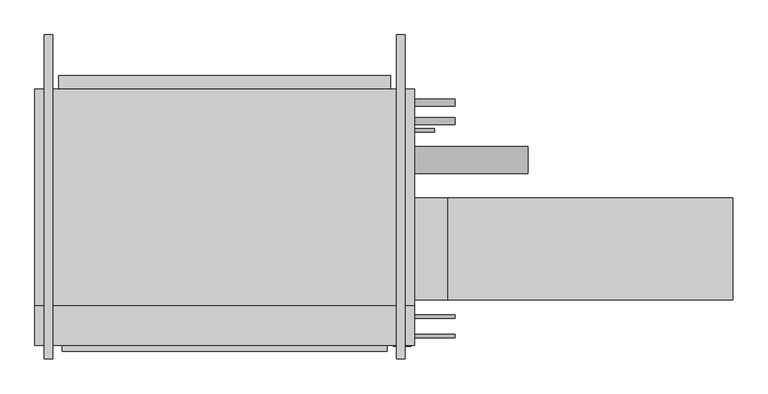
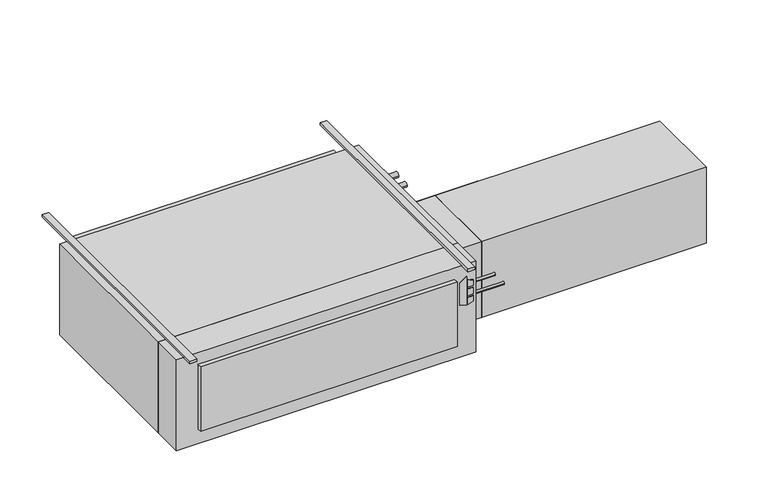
"""IFC4 building model written with IfcOpenShell, lengths in millimetres: proxy geometry."""

from ifc_helpers import new_model, si_unit, point, frame, frame_2d, origin, origin_with_axes, place, context, project, spatial, polyline, circle_curve, trimmed, segment, composite_curve, outline, extrude, source, transform, mapped, element, save


def mechanical_equipment_40ce1df8(model_context):
    return source(origin(), model_context, "Body", "SweptSolid", [
        extrude(outline(polyline([(-193.2519297, 785.8868862), (-203.2, 818.0602728), (-61.0290756, 818.0602728), (-84.0510817, 785.8868862), (-193.2519297, 785.8868862)])), frame((0.0, -797.052, 0.0), z_axis=(0.0, 1.0, 0.0), x_axis=(0.0, 0.0, 1.0)), (0.0, 0.0, 1.0), 3.175),
        extrude(outline(polyline([(-114.2526443, 824.8186058), (-117.4550368, 850.9), (-88.2261958, 850.9), (-80.1617807, 824.8186058), (-114.2526443, 824.8186058)])), frame((0.0, -797.052, 0.0), z_axis=(0.0, 1.0, 0.0), x_axis=(0.0, 0.0, 1.0)), (0.0, 0.0, 1.0), 3.175),
        extrude(outline(polyline([(-166.1161712, 850.9), (-169.7816721, 824.8186058), (-203.2, 824.8186058), (-194.5657628, 850.9), (-166.1161712, 850.9)])), frame((0.0, -797.052, 0.0), z_axis=(0.0, 1.0, 0.0), x_axis=(0.0, 0.0, 1.0)), (0.0, 0.0, 1.0), 3.175),
        extrude(outline(polyline([(-126.8010097, 850.9), (-124.5191834, 824.8186058), (-160.4567319, 824.8186058), (-157.7154669, 850.9), (-126.8010097, 850.9)])), frame((0.0, -797.052, 0.0), z_axis=(0.0, 1.0, 0.0), x_axis=(0.0, 0.0, 1.0)), (0.0, 0.0, 1.0), 3.175),
        extrude(outline(polyline([(863.6, -793.877), (-558.8, -793.877), (-558.8, -644.525), (863.6, -644.525), (863.6, -793.877)])), frame((0.0, 0.0, -457.2), z_axis=(0.0, 0.0, 1.0), x_axis=(1.0, 0.0, 0.0)), (0.0, 0.0, 1.0), 457.2),
        extrude(outline(polyline([(762.0, -816.229), (-457.2, -816.229), (-457.2, -793.877), (762.0, -793.877), (762.0, -816.229)])), frame((0.0, 0.0, -381.0), z_axis=(0.0, 0.0, 1.0), x_axis=(1.0, 0.0, 0.0)), (0.0, 0.0, 1.0), 323.85),
        extrude(outline(polyline([(2057.4, -241.3), (2057.4, -622.3), (990.6, -622.3), (990.6, -241.3), (2057.4, -241.3)])), frame((0.0, 0.0, -431.8), z_axis=(0.0, 0.0, 1.0), x_axis=(1.0, 0.0, 0.0)), (0.0, 0.0, 1.0), 381.0),
        extrude(outline(polyline([(990.6, -241.3), (990.6, -622.3), (863.6, -622.3), (863.6, -241.3), (990.6, -241.3)])), frame((0.0, 0.0, -431.8), z_axis=(0.0, 0.0, 1.0), x_axis=(1.0, 0.0, 0.0)), (0.0, 0.0, 1.0), 381.0),
        extrude(outline(composite_curve([segment(trimmed(circle_curve(frame_2d((-758.825, -184.15)), 6.35), [point((-752.475, -184.15))], [point((-765.175, -184.15))], False, "CARTESIAN"), True, "CONTINUOUS"), segment(trimmed(circle_curve(frame_2d((-758.825, -184.15)), 6.35), [point((-765.175, -184.15))], [point((-752.475, -184.15))], False, "CARTESIAN"), True, "CONTINUOUS")], self_intersect=False)), frame((863.6, 0.0, 0.0), z_axis=(1.0, 0.0, 0.0), x_axis=(0.0, 1.0, 0.0)), (0.0, 0.0, 1.0), 152.4),
        extrude(outline(composite_curve([segment(trimmed(circle_curve(frame_2d((-685.8, -184.15)), 6.35), [point((-679.45, -184.15))], [point((-692.15, -184.15))], False, "CARTESIAN"), True, "CONTINUOUS"), segment(trimmed(circle_curve(frame_2d((-685.8, -184.15)), 6.35), [point((-692.15, -184.15))], [point((-679.45, -184.15))], False, "CARTESIAN"), True, "CONTINUOUS")], self_intersect=False)), frame((863.6, 0.0, 0.0), z_axis=(1.0, 0.0, 0.0), x_axis=(0.0, 1.0, 0.0)), (0.0, 0.0, 1.0), 152.4),
        extrude(outline(composite_curve([segment(trimmed(circle_curve(frame_2d((117.475, -171.45)), 12.7), [point((130.175, -171.45))], [point((104.775, -171.45))], False, "CARTESIAN"), True, "CONTINUOUS"), segment(trimmed(circle_curve(frame_2d((117.475, -171.45)), 12.7), [point((104.775, -171.45))], [point((130.175, -171.45))], False, "CARTESIAN"), True, "CONTINUOUS")], self_intersect=False)), frame((863.6, 0.0, 0.0), z_axis=(1.0, 0.0, 0.0), x_axis=(0.0, 1.0, 0.0)), (0.0, 0.0, 1.0), 152.4),
        extrude(outline(composite_curve([segment(trimmed(circle_curve(frame_2d((47.625, -177.8)), 12.7), [point((60.325, -177.8))], [point((34.925, -177.8))], False, "CARTESIAN"), True, "CONTINUOUS"), segment(trimmed(circle_curve(frame_2d((47.625, -177.8)), 12.7), [point((34.925, -177.8))], [point((60.325, -177.8))], False, "CARTESIAN"), True, "CONTINUOUS")], self_intersect=False)), frame((863.6, 0.0, 0.0), z_axis=(1.0, 0.0, 0.0), x_axis=(0.0, 1.0, 0.0)), (0.0, 0.0, 1.0), 152.4),
        extrude(outline(composite_curve([segment(trimmed(circle_curve(frame_2d((-98.4896516, -228.6360165)), 50.8), [point((-47.6896516, -228.6360165))], [point((-149.2896516, -228.6360165))], False, "CARTESIAN"), True, "CONTINUOUS"), segment(trimmed(circle_curve(frame_2d((-98.4896516, -228.6360165)), 50.8), [point((-149.2896516, -228.6360165))], [point((-47.6896516, -228.6360165))], False, "CARTESIAN"), True, "CONTINUOUS")], self_intersect=False)), frame((863.6, 0.0, 0.0), z_axis=(1.0, 0.0, 0.0), x_axis=(0.0, 1.0, 0.0)), (0.0, 0.0, 1.0), 425.45),
        extrude(outline(composite_curve([segment(trimmed(circle_curve(frame_2d((12.7, -409.575)), 6.35), [point((19.05, -409.575))], [point((6.35, -409.575))], False, "CARTESIAN"), True, "CONTINUOUS"), segment(trimmed(circle_curve(frame_2d((12.7, -409.575)), 6.35), [point((6.35, -409.575))], [point((19.05, -409.575))], False, "CARTESIAN"), True, "CONTINUOUS")], self_intersect=False)), frame((863.6, 0.0, 0.0), z_axis=(1.0, 0.0, 0.0), x_axis=(0.0, 1.0, 0.0)), (0.0, 0.0, 1.0), 76.2),
        extrude(outline(polyline([(863.6, 168.275), (863.6, -644.525), (-558.8, -644.525), (-558.8, 168.275), (863.6, 168.275)])), frame((0.0, 0.0, -457.2), z_axis=(0.0, 0.0, 1.0), x_axis=(1.0, 0.0, 0.0)), (0.0, 0.0, 1.0), 457.2),
        extrude(outline(polyline([(-469.9, 219.075), (774.7, 219.075), (774.7, 168.275), (-469.9, 168.275), (-469.9, 219.075)])), frame((0.0, 0.0, -381.0), z_axis=(0.0, 0.0, 1.0), x_axis=(1.0, 0.0, 0.0)), (0.0, 0.0, 1.0), 355.6),
        extrude(outline(polyline([(-492.125, 371.475), (-492.125, -844.677), (-523.875, -844.677), (-523.875, 371.475), (-492.125, 371.475)])), origin_with_axes(), (0.0, 0.0, 1.0), 12.7),
        extrude(outline(polyline([(828.675, 371.475), (828.675, -844.677), (796.925, -844.677), (796.925, 371.475), (828.675, 371.475)])), origin_with_axes(), (0.0, 0.0, 1.0), 12.7),
    ])


if __name__ == "__main__":
    model = new_model("IFC4")
    model_context = context("Model", 3, world=origin())
    ifc_project = project(units=[si_unit("LENGTHUNIT", "METRE", prefix="MILLI")], contexts=[model_context])
    site = spatial("IfcSite", under=ifc_project)
    building = spatial("IfcBuilding", under=site)
    placement = place(None, origin())
    mechanical_equipment_shape = mechanical_equipment_40ce1df8(model_context)
    element("IfcBuildingElementProxy", 1, Name="High_Capacity_Horizontal_Cabinet_Fan_Coil_Unit_-_HTY_-_IEC_-_4-Pipe_RH Side_2022 : Size 20 - 115v/60Hz/1Ph - 4/1 Coil - 4\" AirIn", ObjectType="High_Capacity_Horizontal_Cabinet_Fan_Coil_Unit_-_HTY_-_IEC_-_4-Pipe_RH Side_2022 : Size 20 - 115v/60Hz/1Ph - 4/1 Coil - 4\" AirIn", at=placement, inside=building, context=model_context, shape_type="MappedRepresentation", body=[
        mapped(mechanical_equipment_shape, transform((0.0, 0.0, 0.0), x_axis=(1.0, 0.0, 0.0), y_axis=(0.0, 1.0, 0.0), z_axis=(0.0, 0.0, 1.0))),
    ])
    save(model, "model.ifc")
